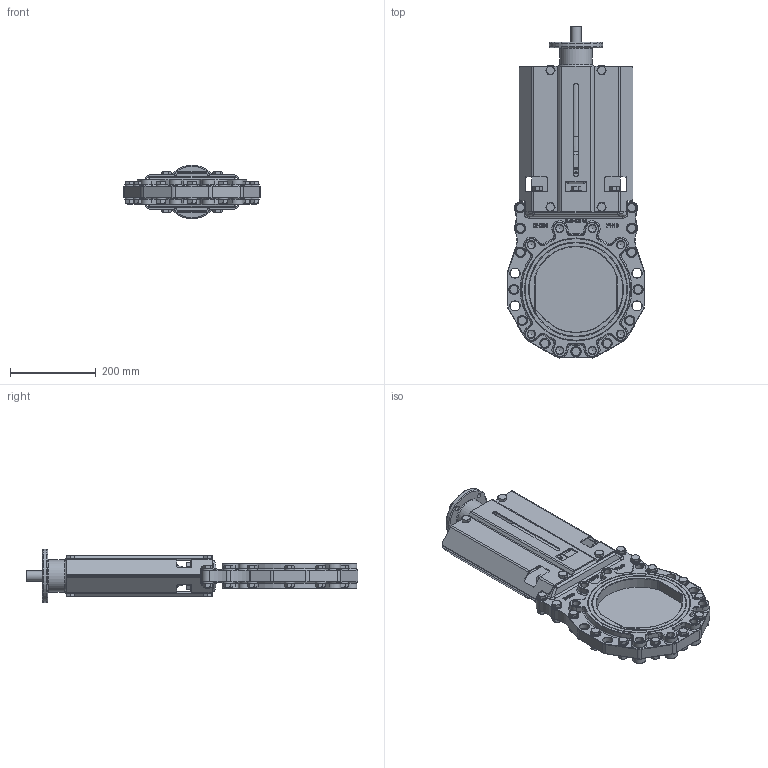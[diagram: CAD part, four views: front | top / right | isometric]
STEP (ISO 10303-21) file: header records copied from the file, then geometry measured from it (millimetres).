
FILE_DESCRIPTION(/* description */ (''),/* implementation_level */ '2;1');
FILE_NAME(/* name */ 'Rising stem knife gate valve with top flange DN200-16.stp',/* time_stamp */ '2025-04-21T17:17:23+08:00',/* author */ (''),/* organization */ (''),/* preprocessor_version */ 'ST-DEVELOPER v15',/* originating_system */ 'SIEMENS PLM Software NX 10.0',/* authorisation */ '');
FILE_SCHEMA (('AP203_CONFIGURATION_CONTROLLED_3D_DESIGN_OF_MECHANICAL_PARTS_AND_ASSEMBLIES_MIM_LF { 1 0 10303 403 2 1 2}'));
Products named in the file (1): Admi256412D81nx8
Bounding box: 319.95 x 775.47 x 125 mm (x, y, z)
Volume: 4911123.8 mm3; surface area: 969353.8 mm2
Topology: 1 solids, 31 shells, 2774 faces, 6721 edges, 4179 vertices
Faces by surface type: plane 1065, cylinder 676, cone 295, extrusion 260, torus 252, bspline 202, sphere 24
Full cylindrical faces by diameter (mm): 2 x4, 5.2 x1, 10.106 x6, 10.5 x2, 11.053 x17, 11.5 x4, 12 x32, 13 x36, 17.2 x21, 17.294 x16, 18 x2, 20 x6, 23 x8, 24 x33, 25 x1, 40 x1, 66 x1, 73 x1, 76 x1, 125 x1
Entity records: 84689 total; most frequent: CARTESIAN_POINT 24460, ORIENTED_EDGE 12416, DIRECTION 11200, EDGE_CURVE 6208, AXIS2_PLACEMENT_3D 4183, VERTEX_POINT 4079, EDGE_LOOP 3463, VECTOR 2834
